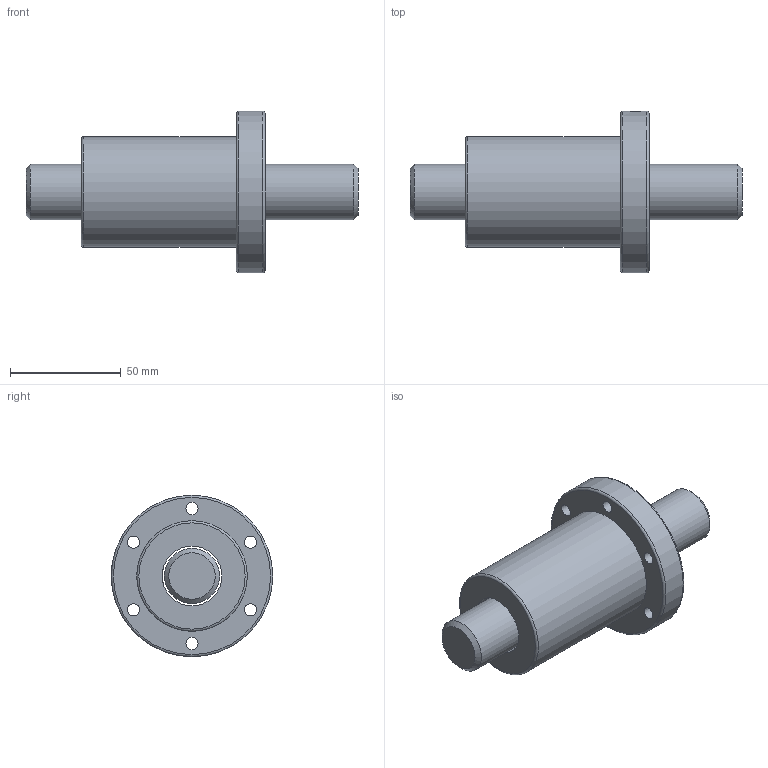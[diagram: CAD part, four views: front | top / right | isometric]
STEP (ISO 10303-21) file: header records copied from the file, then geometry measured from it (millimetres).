
FILE_DESCRIPTION (( 'STEP AP203' ), '1' );
FILE_NAME ('SFV02525-1.8.STEP', '2023-08-16T06:04:11', ( '' ), ( '' ), 'SwSTEP 2.0', 'SolidWorks 2022', '' );
FILE_SCHEMA (( 'CONFIG_CONTROL_DESIGN' ));
Length unit declared in the file: millimetre
Products named in the file (1): SFV02525-1.8
Bounding box: 150 x 73 x 73 mm (x, y, z)
Volume: 213512.9 mm3; surface area: 42464.1 mm2
Topology: 2 solids, 2 shells, 42 faces, 85 edges, 55 vertices
Faces by surface type: cylinder 21, plane 13, cone 3, torus 3, bspline 2
Full cylindrical faces by diameter (mm): 4 x1, 5.5 x6, 6.917 x1, 9.5 x6, 25 x1, 27 x1, 31 x1, 50 x1, 73 x1
Entity records: 2745 total; most frequent: CARTESIAN_POINT 1877, DIRECTION 170, ORIENTED_EDGE 110, EDGE_LOOP 91, AXIS2_PLACEMENT_3D 85, FACE_OUTER_BOUND 64, EDGE_CURVE 55, VERTEX_POINT 50
